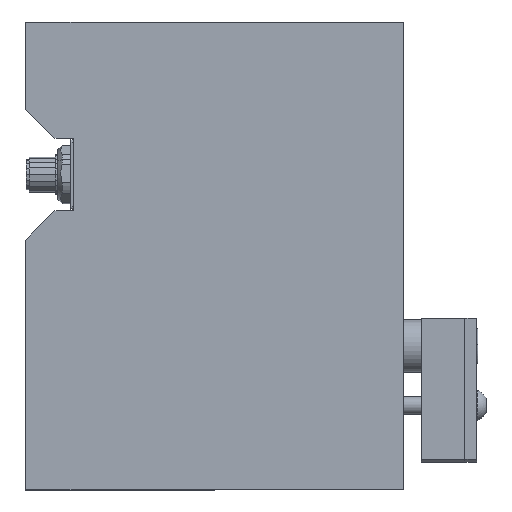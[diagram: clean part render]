
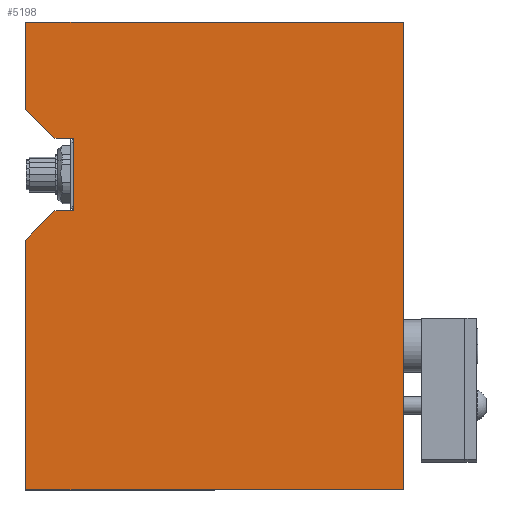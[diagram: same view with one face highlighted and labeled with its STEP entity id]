
A CAD part, front view. The second image highlights one B-rep face of the part: STEP entity #5198.
In plain terms, the highlighted planar face has unit normal (0, -1, 0).
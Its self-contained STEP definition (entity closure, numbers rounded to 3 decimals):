
#458 = CARTESIAN_POINT ( 'NONE',  ( -271., 20.354, 15.5 ) ) ;
#604 = VECTOR ( 'NONE', #6096, 1000. ) ;
#1081 = ORIENTED_EDGE ( 'NONE', *, *, #1726, .T. ) ;
#1398 = ORIENTED_EDGE ( 'NONE', *, *, #2768, .F. ) ;
#1726 = EDGE_CURVE ( 'NONE', #13464, #7903, #16835, .T. ) ;
#2768 = EDGE_CURVE ( 'NONE', #12850, #18646, #17871, .T. ) ;
#3339 = LINE ( 'NONE', #6176, #7273 ) ;
#3562 = DIRECTION ( 'NONE',  ( 0.707, 0., -0.707 ) ) ;
#3645 = EDGE_CURVE ( 'NONE', #14256, #9928, #21760, .T. ) ;
#3766 = ORIENTED_EDGE ( 'NONE', *, *, #11348, .T. ) ;
#3864 = ORIENTED_EDGE ( 'NONE', *, *, #7216, .T. ) ;
#4550 = DIRECTION ( 'NONE',  ( -1., 0., 0. ) ) ;
#5198 = ADVANCED_FACE ( 'NONE', ( #9566 ), #16256, .T. ) ;
#5211 = ORIENTED_EDGE ( 'NONE', *, *, #17949, .T. ) ;
#6096 = DIRECTION ( 'NONE',  ( -1., 0., 0. ) ) ;
#6132 = VERTEX_POINT ( 'NONE', #9876 ) ;
#6176 = CARTESIAN_POINT ( 'NONE',  ( -290.5, 20.354, 2.5 ) ) ;
#6211 = CARTESIAN_POINT ( 'NONE',  ( -204.6, 20.354, 9. ) ) ;
#6238 = CARTESIAN_POINT ( 'NONE',  ( -290.5, 20.354, 80.5 ) ) ;
#6705 = ORIENTED_EDGE ( 'NONE', *, *, #3645, .T. ) ;
#6723 = CARTESIAN_POINT ( 'NONE',  ( -287.5, 20.354, 50.5 ) ) ;
#6737 = ORIENTED_EDGE ( 'NONE', *, *, #21739, .T. ) ;
#6968 = CARTESIAN_POINT ( 'NONE',  ( -277.5, 20.354, 15.5 ) ) ;
#7216 = EDGE_CURVE ( 'NONE', #9928, #14813, #20424, .T. ) ;
#7233 = DIRECTION ( 'NONE',  ( 0., 0., 1. ) ) ;
#7273 = VECTOR ( 'NONE', #17898, 1000. ) ;
#7471 = LINE ( 'NONE', #14338, #20309 ) ;
#7675 = DIRECTION ( 'NONE',  ( 0., 0., 1. ) ) ;
#7895 = DIRECTION ( 'NONE',  ( 0., 0., -1. ) ) ;
#7903 = VERTEX_POINT ( 'NONE', #14583 ) ;
#9566 = FACE_OUTER_BOUND ( 'NONE', #14151, .T. ) ;
#9876 = CARTESIAN_POINT ( 'NONE',  ( -157.5, 20.354, 80.5 ) ) ;
#9928 = VERTEX_POINT ( 'NONE', #12596 ) ;
#10524 = CARTESIAN_POINT ( 'NONE',  ( -287.5, 20.354, 9. ) ) ;
#10622 = VERTEX_POINT ( 'NONE', #21305 ) ;
#11348 = EDGE_CURVE ( 'NONE', #6132, #10622, #21582, .T. ) ;
#12177 = DIRECTION ( 'NONE',  ( 0., 0., -1. ) ) ;
#12360 = VECTOR ( 'NONE', #3562, 1000. ) ;
#12596 = CARTESIAN_POINT ( 'NONE',  ( -271., 20.354, 15.5 ) ) ;
#12658 = VECTOR ( 'NONE', #4550, 1000. ) ;
#12818 = VECTOR ( 'NONE', #18401, 1000. ) ;
#12850 = VERTEX_POINT ( 'NONE', #21722 ) ;
#13335 = LINE ( 'NONE', #21713, #12818 ) ;
#13372 = VECTOR ( 'NONE', #21768, 1000. ) ;
#13464 = VERTEX_POINT ( 'NONE', #6723 ) ;
#13572 = CARTESIAN_POINT ( 'NONE',  ( -277.5, 20.354, 40.5 ) ) ;
#13608 = CARTESIAN_POINT ( 'NONE',  ( -157.5, 20.354, -80.5 ) ) ;
#13680 = EDGE_CURVE ( 'NONE', #20206, #12850, #17923, .T. ) ;
#14151 = EDGE_LOOP ( 'NONE', ( #1398, #18016, #5211, #3766, #17625, #1081, #21712, #6705, #3864, #6737 ) ) ;
#14256 = VERTEX_POINT ( 'NONE', #21242 ) ;
#14338 = CARTESIAN_POINT ( 'NONE',  ( -157.5, 20.354, -80.5 ) ) ;
#14583 = CARTESIAN_POINT ( 'NONE',  ( -277.5, 20.354, 40.5 ) ) ;
#14813 = VERTEX_POINT ( 'NONE', #19319 ) ;
#15789 = EDGE_CURVE ( 'NONE', #7903, #14256, #13335, .T. ) ;
#15970 = VECTOR ( 'NONE', #17010, 1000. ) ;
#16256 = PLANE ( 'NONE',  #20063 ) ;
#16420 = EDGE_CURVE ( 'NONE', #13464, #10622, #21404, .T. ) ;
#16835 = LINE ( 'NONE', #13572, #12360 ) ;
#16944 = VECTOR ( 'NONE', #7233, 1000. ) ;
#17010 = DIRECTION ( 'NONE',  ( -1., 0., 0. ) ) ;
#17290 = VECTOR ( 'NONE', #12177, 1000. ) ;
#17625 = ORIENTED_EDGE ( 'NONE', *, *, #16420, .F. ) ;
#17828 = CARTESIAN_POINT ( 'NONE',  ( -118.7, 20.354, -80.5 ) ) ;
#17871 = LINE ( 'NONE', #20079, #13372 ) ;
#17898 = DIRECTION ( 'NONE',  ( -0.707, 0., -0.707 ) ) ;
#17923 = LINE ( 'NONE', #17828, #604 ) ;
#17935 = DIRECTION ( 'NONE',  ( 0., -1., 0. ) ) ;
#17949 = EDGE_CURVE ( 'NONE', #20206, #6132, #7471, .T. ) ;
#18016 = ORIENTED_EDGE ( 'NONE', *, *, #13680, .F. ) ;
#18401 = DIRECTION ( 'NONE',  ( 1., 0., 0. ) ) ;
#18646 = VERTEX_POINT ( 'NONE', #21563 ) ;
#19319 = CARTESIAN_POINT ( 'NONE',  ( -277.5, 20.354, 15.5 ) ) ;
#20063 = AXIS2_PLACEMENT_3D ( 'NONE', #6211, #17935, #7895 ) ;
#20079 = CARTESIAN_POINT ( 'NONE',  ( -287.5, 20.354, 9. ) ) ;
#20206 = VERTEX_POINT ( 'NONE', #13608 ) ;
#20309 = VECTOR ( 'NONE', #7675, 1000. ) ;
#20424 = LINE ( 'NONE', #6968, #15970 ) ;
#21242 = CARTESIAN_POINT ( 'NONE',  ( -271., 20.354, 40.5 ) ) ;
#21305 = CARTESIAN_POINT ( 'NONE',  ( -287.5, 20.354, 80.5 ) ) ;
#21404 = LINE ( 'NONE', #10524, #16944 ) ;
#21563 = CARTESIAN_POINT ( 'NONE',  ( -287.5, 20.354, 5.5 ) ) ;
#21582 = LINE ( 'NONE', #6238, #12658 ) ;
#21712 = ORIENTED_EDGE ( 'NONE', *, *, #15789, .T. ) ;
#21713 = CARTESIAN_POINT ( 'NONE',  ( -271., 20.354, 40.5 ) ) ;
#21722 = CARTESIAN_POINT ( 'NONE',  ( -287.5, 20.354, -80.5 ) ) ;
#21739 = EDGE_CURVE ( 'NONE', #14813, #18646, #3339, .T. ) ;
#21760 = LINE ( 'NONE', #458, #17290 ) ;
#21768 = DIRECTION ( 'NONE',  ( 0., 0., 1. ) ) ;
